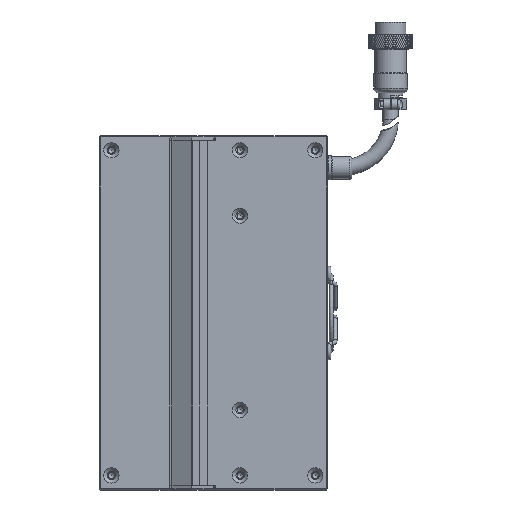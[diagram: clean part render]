
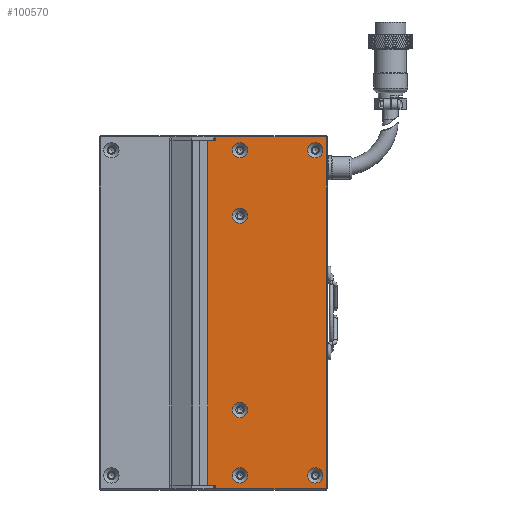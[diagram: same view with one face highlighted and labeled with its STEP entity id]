
A CAD part, left-side view. The second image highlights one B-rep face of the part: STEP entity #100570.
In plain terms, the highlighted planar face has unit normal (-1, 0, 0).
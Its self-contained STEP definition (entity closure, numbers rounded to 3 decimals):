
#41 = CIRCLE ( 'NONE', #57850, 3.15 ) ;
#64 = ORIENTED_EDGE ( 'NONE', *, *, #110498, .F. ) ;
#1451 = VERTEX_POINT ( 'NONE', #70600 ) ;
#2319 = CARTESIAN_POINT ( 'NONE',  ( -24.998, -26.5, -71. ) ) ;
#3772 = CIRCLE ( 'NONE', #5632, 3.15 ) ;
#4410 = AXIS2_PLACEMENT_3D ( 'NONE', #46240, #54222, #74147 ) ;
#4877 = DIRECTION ( 'NONE',  ( -1., 0., 0. ) ) ;
#5632 = AXIS2_PLACEMENT_3D ( 'NONE', #87023, #67138, #22040 ) ;
#6068 = EDGE_CURVE ( 'NONE', #35515, #35515, #116109, .T. ) ;
#6189 = LINE ( 'NONE', #62063, #20540 ) ;
#9540 = FACE_BOUND ( 'NONE', #101400, .T. ) ;
#9980 = EDGE_LOOP ( 'NONE', ( #64079, #11856, #110624, #110016, #53499, #71275, #57365, #89311 ) ) ;
#11729 = LINE ( 'NONE', #43168, #60316 ) ;
#11856 = ORIENTED_EDGE ( 'NONE', *, *, #49389, .T. ) ;
#13973 = DIRECTION ( 'NONE',  ( -1., 0., 0. ) ) ;
#15573 = EDGE_CURVE ( 'NONE', #38519, #38519, #84022, .T. ) ;
#17578 = CARTESIAN_POINT ( 'NONE',  ( -24.998, -72., 71. ) ) ;
#17963 = DIRECTION ( 'NONE',  ( 0., 0., 1. ) ) ;
#18324 = VERTEX_POINT ( 'NONE', #25737 ) ;
#18725 = CARTESIAN_POINT ( 'NONE',  ( -24.998, -72.5, -71. ) ) ;
#20445 = EDGE_CURVE ( 'NONE', #34396, #32833, #74198, .T. ) ;
#20540 = VECTOR ( 'NONE', #52083, 1000. ) ;
#22040 = DIRECTION ( 'NONE',  ( 0., 0., 1. ) ) ;
#22316 = VECTOR ( 'NONE', #35573, 1000. ) ;
#22507 = EDGE_CURVE ( 'NONE', #1451, #1451, #36925, .T. ) ;
#23651 = CARTESIAN_POINT ( 'NONE',  ( -24.998, -23.25, -71. ) ) ;
#25210 = LINE ( 'NONE', #72285, #22316 ) ;
#25737 = CARTESIAN_POINT ( 'NONE',  ( -24.998, -26.5, -72.5 ) ) ;
#26996 = VERTEX_POINT ( 'NONE', #51157 ) ;
#28784 = CARTESIAN_POINT ( 'NONE',  ( -24.998, -26.5, 71. ) ) ;
#28854 = CARTESIAN_POINT ( 'NONE',  ( -24.998, -72.5, 71. ) ) ;
#29125 = CARTESIAN_POINT ( 'NONE',  ( -24.998, -72., -72.5 ) ) ;
#30747 = AXIS2_PLACEMENT_3D ( 'NONE', #114817, #69817, #114427 ) ;
#32833 = VERTEX_POINT ( 'NONE', #41916 ) ;
#33332 = DIRECTION ( 'NONE',  ( -1., 0., 0. ) ) ;
#34396 = VERTEX_POINT ( 'NONE', #23651 ) ;
#34565 = EDGE_CURVE ( 'NONE', #18324, #116493, #11729, .T. ) ;
#35424 = CARTESIAN_POINT ( 'NONE',  ( -24.998, -36.5, -36.85 ) ) ;
#35515 = VERTEX_POINT ( 'NONE', #35424 ) ;
#35573 = DIRECTION ( 'NONE',  ( 0., 1., 0. ) ) ;
#36247 = ORIENTED_EDGE ( 'NONE', *, *, #15573, .F. ) ;
#36925 = CIRCLE ( 'NONE', #78170, 3.15 ) ;
#38219 = FACE_BOUND ( 'NONE', #102239, .T. ) ;
#38519 = VERTEX_POINT ( 'NONE', #79709 ) ;
#39375 = ORIENTED_EDGE ( 'NONE', *, *, #22507, .F. ) ;
#39892 = VERTEX_POINT ( 'NONE', #81698 ) ;
#41004 = DIRECTION ( 'NONE',  ( 0., 0., 1. ) ) ;
#41916 = CARTESIAN_POINT ( 'NONE',  ( -24.998, -23.25, 71. ) ) ;
#42468 = FACE_BOUND ( 'NONE', #102689, .T. ) ;
#43168 = CARTESIAN_POINT ( 'NONE',  ( -24.998, -72.5, -72.5 ) ) ;
#43573 = EDGE_CURVE ( 'NONE', #34396, #52999, #64232, .T. ) ;
#45209 = VECTOR ( 'NONE', #65090, 1000. ) ;
#46240 = CARTESIAN_POINT ( 'NONE',  ( -24.998, -36.5, 67. ) ) ;
#47748 = CIRCLE ( 'NONE', #78643, 3.15 ) ;
#49368 = CARTESIAN_POINT ( 'NONE',  ( -24.998, -23.25, -71. ) ) ;
#49389 = EDGE_CURVE ( 'NONE', #52999, #18324, #50920, .T. ) ;
#50447 = EDGE_CURVE ( 'NONE', #54871, #81982, #25210, .T. ) ;
#50920 = LINE ( 'NONE', #91769, #45209 ) ;
#51157 = CARTESIAN_POINT ( 'NONE',  ( -24.998, -67.5, -63.85 ) ) ;
#52083 = DIRECTION ( 'NONE',  ( 0., 0., -1. ) ) ;
#52999 = VERTEX_POINT ( 'NONE', #2319 ) ;
#53499 = ORIENTED_EDGE ( 'NONE', *, *, #50447, .T. ) ;
#54222 = DIRECTION ( 'NONE',  ( -1., 0., 0. ) ) ;
#54871 = VERTEX_POINT ( 'NONE', #114960 ) ;
#57365 = ORIENTED_EDGE ( 'NONE', *, *, #115083, .F. ) ;
#57850 = AXIS2_PLACEMENT_3D ( 'NONE', #105771, #4877, #68761 ) ;
#59068 = CARTESIAN_POINT ( 'NONE',  ( -24.998, -36.5, -40. ) ) ;
#59107 = ORIENTED_EDGE ( 'NONE', *, *, #91350, .F. ) ;
#60092 = DIRECTION ( 'NONE',  ( 0., 0., 1. ) ) ;
#60316 = VECTOR ( 'NONE', #61527, 1000. ) ;
#61527 = DIRECTION ( 'NONE',  ( 0., -1., 0. ) ) ;
#62063 = CARTESIAN_POINT ( 'NONE',  ( -24.998, -26.5, 64. ) ) ;
#62546 = EDGE_CURVE ( 'NONE', #39892, #39892, #3772, .T. ) ;
#64079 = ORIENTED_EDGE ( 'NONE', *, *, #43573, .T. ) ;
#64232 = LINE ( 'NONE', #18725, #82756 ) ;
#65090 = DIRECTION ( 'NONE',  ( 0., 0., -1. ) ) ;
#65905 = LINE ( 'NONE', #28854, #112966 ) ;
#67138 = DIRECTION ( 'NONE',  ( -1., 0., 0. ) ) ;
#68161 = EDGE_CURVE ( 'NONE', #81982, #109524, #6189, .T. ) ;
#68540 = VECTOR ( 'NONE', #41004, 1000. ) ;
#68761 = DIRECTION ( 'NONE',  ( 0., 0., 1. ) ) ;
#69817 = DIRECTION ( 'NONE',  ( 1., 0., 0. ) ) ;
#70223 = PLANE ( 'NONE',  #30747 ) ;
#70600 = CARTESIAN_POINT ( 'NONE',  ( -24.998, -36.5, -63.85 ) ) ;
#71127 = EDGE_LOOP ( 'NONE', ( #64 ) ) ;
#71275 = ORIENTED_EDGE ( 'NONE', *, *, #68161, .T. ) ;
#72285 = CARTESIAN_POINT ( 'NONE',  ( -24.998, -72.5, 72.5 ) ) ;
#74147 = DIRECTION ( 'NONE',  ( 0., 0., 1. ) ) ;
#74198 = LINE ( 'NONE', #49368, #68540 ) ;
#74532 = ORIENTED_EDGE ( 'NONE', *, *, #6068, .F. ) ;
#77764 = DIRECTION ( 'NONE',  ( 0., 0., 1. ) ) ;
#78170 = AXIS2_PLACEMENT_3D ( 'NONE', #104039, #78880, #115163 ) ;
#78210 = ORIENTED_EDGE ( 'NONE', *, *, #62546, .F. ) ;
#78393 = CARTESIAN_POINT ( 'NONE',  ( -24.998, -67.5, -67. ) ) ;
#78643 = AXIS2_PLACEMENT_3D ( 'NONE', #78393, #33332, #60092 ) ;
#78880 = DIRECTION ( 'NONE',  ( -1., 0., 0. ) ) ;
#79709 = CARTESIAN_POINT ( 'NONE',  ( -24.998, -36.5, 70.15 ) ) ;
#81698 = CARTESIAN_POINT ( 'NONE',  ( -24.998, -67.5, 70.15 ) ) ;
#81982 = VERTEX_POINT ( 'NONE', #85928 ) ;
#82756 = VECTOR ( 'NONE', #93692, 1000. ) ;
#84022 = CIRCLE ( 'NONE', #4410, 3.15 ) ;
#85928 = CARTESIAN_POINT ( 'NONE',  ( -24.998, -26.5, 72.5 ) ) ;
#87023 = CARTESIAN_POINT ( 'NONE',  ( -24.998, -67.5, 67. ) ) ;
#88650 = EDGE_LOOP ( 'NONE', ( #78210 ) ) ;
#89311 = ORIENTED_EDGE ( 'NONE', *, *, #20445, .F. ) ;
#89585 = FACE_BOUND ( 'NONE', #88650, .T. ) ;
#91285 = VERTEX_POINT ( 'NONE', #101996 ) ;
#91350 = EDGE_CURVE ( 'NONE', #91285, #91285, #41, .T. ) ;
#91769 = CARTESIAN_POINT ( 'NONE',  ( -24.998, -26.5, -64. ) ) ;
#92476 = VECTOR ( 'NONE', #17963, 1000. ) ;
#93692 = DIRECTION ( 'NONE',  ( 0., -1., 0. ) ) ;
#100570 = ADVANCED_FACE ( 'NONE', ( #106616, #9540, #115201, #42468, #38219, #103779, #89585 ), #70223, .F. ) ;
#101063 = AXIS2_PLACEMENT_3D ( 'NONE', #59068, #13973, #77764 ) ;
#101400 = EDGE_LOOP ( 'NONE', ( #39375 ) ) ;
#101623 = EDGE_CURVE ( 'NONE', #116493, #54871, #118164, .T. ) ;
#101996 = CARTESIAN_POINT ( 'NONE',  ( -24.998, -36.5, 43.15 ) ) ;
#102239 = EDGE_LOOP ( 'NONE', ( #59107 ) ) ;
#102689 = EDGE_LOOP ( 'NONE', ( #74532 ) ) ;
#103779 = FACE_OUTER_BOUND ( 'NONE', #9980, .T. ) ;
#104039 = CARTESIAN_POINT ( 'NONE',  ( -24.998, -36.5, -67. ) ) ;
#105771 = CARTESIAN_POINT ( 'NONE',  ( -24.998, -36.5, 40. ) ) ;
#106616 = FACE_BOUND ( 'NONE', #71127, .T. ) ;
#109524 = VERTEX_POINT ( 'NONE', #28784 ) ;
#110016 = ORIENTED_EDGE ( 'NONE', *, *, #101623, .T. ) ;
#110498 = EDGE_CURVE ( 'NONE', #26996, #26996, #47748, .T. ) ;
#110624 = ORIENTED_EDGE ( 'NONE', *, *, #34565, .T. ) ;
#111725 = DIRECTION ( 'NONE',  ( 0., -1., 0. ) ) ;
#112966 = VECTOR ( 'NONE', #111725, 1000. ) ;
#114427 = DIRECTION ( 'NONE',  ( 0., 0., -1. ) ) ;
#114817 = CARTESIAN_POINT ( 'NONE',  ( -24.998, -72.5, 71. ) ) ;
#114960 = CARTESIAN_POINT ( 'NONE',  ( -24.998, -72., 72.5 ) ) ;
#115083 = EDGE_CURVE ( 'NONE', #32833, #109524, #65905, .T. ) ;
#115163 = DIRECTION ( 'NONE',  ( 0., 0., 1. ) ) ;
#115201 = FACE_BOUND ( 'NONE', #116906, .T. ) ;
#116109 = CIRCLE ( 'NONE', #101063, 3.15 ) ;
#116493 = VERTEX_POINT ( 'NONE', #29125 ) ;
#116906 = EDGE_LOOP ( 'NONE', ( #36247 ) ) ;
#118164 = LINE ( 'NONE', #17578, #92476 ) ;
